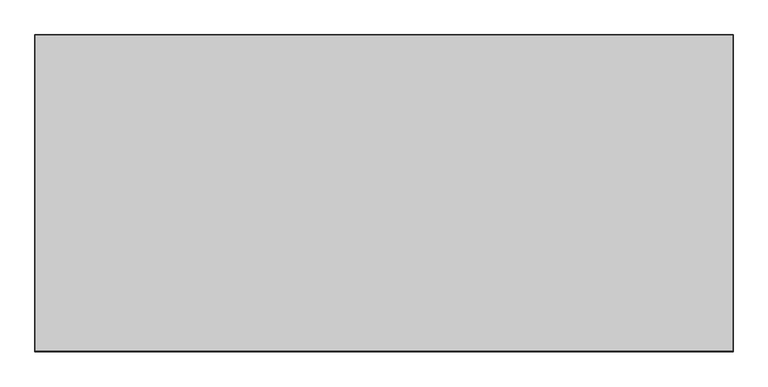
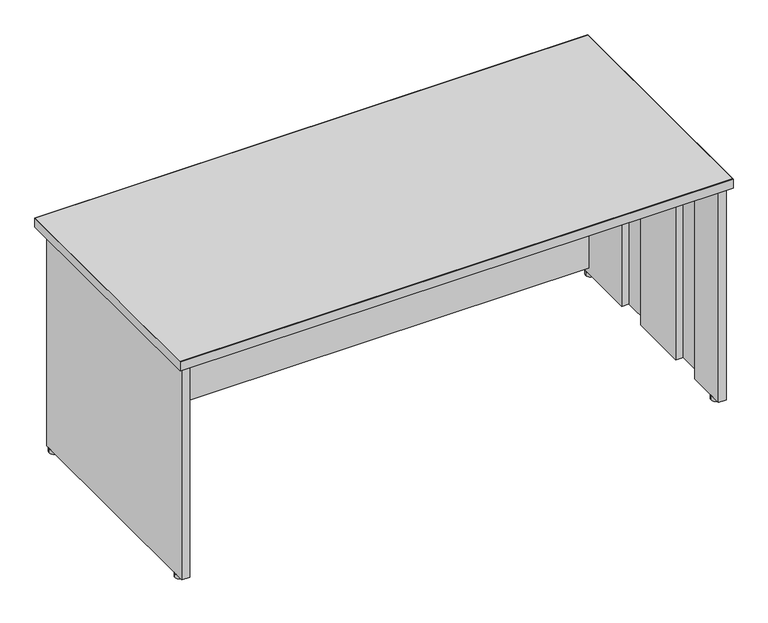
"""IFC4 building model written with IfcOpenShell, lengths in millimetres: furniture geometry, Steelcase - Kick Freestanding - Desk Shell - Full Height Modesty Panel : 30D x 66W."""

from ifc_helpers import new_model, si_unit, point, frame, frame_2d, origin, origin_with_axes, place, context, project, spatial, polyline, circle_curve, trimmed, segment, composite_curve, outline, extrude, source, transform, mapped, element, save


def furniture_17afb317(model_context):
    return source(origin(), model_context, "Body", "SweptSolid", [
        extrude(outline(polyline([(677.0450425, -999.9647597), (677.0450425, -974.5647604), (2279.0738425, -974.5647604), (2279.0738425, -999.9647597), (677.0450425, -999.9647597)])), frame((0.0, 0.0, 31.242), z_axis=(0.0, 0.0, 1.0), x_axis=(1.0, 0.0, 0.0)), (0.0, 0.0, 1.0), 663.702),
        extrude(outline(composite_curve([segment(trimmed(circle_curve(frame_2d((665.1357759, -986.9367877)), 13.97), [point((651.1657759, -986.9367877))], [point((679.1057759, -986.9367877))], False, "CARTESIAN"), True, "CONTINUOUS"), segment(trimmed(circle_curve(frame_2d((665.1357759, -986.9367877)), 13.97), [point((679.1057759, -986.9367877))], [point((651.1657759, -986.9367877))], False, "CARTESIAN"), True, "CONTINUOUS")], self_intersect=False)), origin_with_axes(), (0.0, 0.0, 1.0), 12.446),
        extrude(outline(composite_curve([segment(trimmed(circle_curve(frame_2d((665.1357759, -1646.0441481)), 13.97), [point((651.1657759, -1646.0441481))], [point((679.1057759, -1646.0441481))], False, "CARTESIAN"), True, "CONTINUOUS"), segment(trimmed(circle_curve(frame_2d((665.1357759, -1646.0441481)), 13.97), [point((679.1057759, -1646.0441481))], [point((651.1657759, -1646.0441481))], False, "CARTESIAN"), True, "CONTINUOUS")], self_intersect=False)), origin_with_axes(), (0.0, 0.0, 1.0), 12.446),
        extrude(outline(polyline([(2279.0738425, -1172.2529604), (2279.0738425, -972.7867604), (2303.5594421, -972.7867604), (2303.5594421, -1680.938741), (2279.0738421, -1680.938741), (2279.0738421, -1556.6311348), (2301.5020425, -1556.6311348), (2301.5020425, -1456.9107682), (2279.0738421, -1456.9107682), (2279.0738421, -1271.9733647), (2301.5020425, -1271.9733647), (2301.5020425, -1172.2529604), (2279.0738425, -1172.2529604)])), frame((0.0, 0.0, 12.446), z_axis=(0.0, 0.0, 1.0), x_axis=(1.0, 0.0, 0.0)), (0.0, 0.0, 1.0), 682.498),
        extrude(outline(polyline([(677.0450425, -1172.2529604), (654.6168425, -1172.2529604), (654.6168425, -1271.9733647), (677.0450429, -1271.9733647), (677.0450429, -1456.9107682), (654.6168425, -1456.9107682), (654.6168425, -1556.6311348), (677.0450429, -1556.6311348), (677.0450429, -1680.938741), (652.5594429, -1680.938741), (652.5594429, -972.7867604), (677.0450425, -972.7867604), (677.0450425, -1172.2529604)])), frame((0.0, 0.0, 12.446), z_axis=(0.0, 0.0, 1.0), x_axis=(1.0, 0.0, 0.0)), (0.0, 0.0, 1.0), 682.498),
        extrude(outline(polyline([(2315.2688425, -932.6293604), (2315.2688425, -1690.6669215), (640.8500425, -1690.6669215), (640.8500425, -932.6293604), (2315.2688425, -932.6293604)])), frame((0.0, 0.0, 694.944), z_axis=(0.0, 0.0, 1.0), x_axis=(1.0, 0.0, 0.0)), (0.0, 0.0, 1.0), 28.956),
        extrude(outline(polyline([(2316.2594425, -931.6387604), (2316.2594425, -1693.6387604), (639.8594425, -1693.6387604), (639.8594425, -931.6387604), (2316.2594425, -931.6387604)]), holes=[polyline([(2315.2688425, -932.6293604), (640.8500425, -932.6293604), (640.8500425, -1690.6669215), (2315.2688425, -1690.6669215), (2315.2688425, -932.6293604)])]), frame((0.0, 0.0, 694.944), z_axis=(0.0, 0.0, 1.0), x_axis=(1.0, 0.0, 0.0)), (0.0, 0.0, 1.0), 28.956),
        extrude(outline(composite_curve([segment(trimmed(circle_curve(frame_2d((2290.9831091, -1646.0441481)), 13.97), [point((2277.0131091, -1646.0441481))], [point((2304.9531091, -1646.0441481))], False, "CARTESIAN"), True, "CONTINUOUS"), segment(trimmed(circle_curve(frame_2d((2290.9831091, -1646.0441481)), 13.97), [point((2304.9531091, -1646.0441481))], [point((2277.0131091, -1646.0441481))], False, "CARTESIAN"), True, "CONTINUOUS")], self_intersect=False)), origin_with_axes(), (0.0, 0.0, 1.0), 12.446),
        extrude(outline(composite_curve([segment(trimmed(circle_curve(frame_2d((2290.9831091, -986.9367877)), 13.97), [point((2304.9531091, -986.9367877))], [point((2277.0131091, -986.9367877))], False, "CARTESIAN"), True, "CONTINUOUS"), segment(trimmed(circle_curve(frame_2d((2290.9831091, -986.9367877)), 13.97), [point((2277.0131091, -986.9367877))], [point((2304.9531091, -986.9367877))], False, "CARTESIAN"), True, "CONTINUOUS")], self_intersect=False)), origin_with_axes(), (0.0, 0.0, 1.0), 12.446),
    ])


if __name__ == "__main__":
    model = new_model("IFC4")
    model_context = context("Model", 3, world=origin())
    ifc_project = project(units=[si_unit("LENGTHUNIT", "METRE", prefix="MILLI")], contexts=[model_context])
    site = spatial("IfcSite", under=ifc_project)
    building = spatial("IfcBuilding", under=site)
    placement = place(None, origin())
    furniture_shape = furniture_17afb317(model_context)
    element("IfcFurniture", 1, ObjectType="Steelcase - Kick Freestanding - Desk Shell - Full Height Modesty Panel : 30D x 66W", at=placement, inside=building, context=model_context, shape_type="MappedRepresentation", body=[
        mapped(furniture_shape, transform((0.0, 0.0, 0.0), x_axis=(1.0, 0.0, 0.0), y_axis=(0.0, 1.0, 0.0), z_axis=(0.0, 0.0, 1.0))),
    ])
    save(model, "model.ifc")
